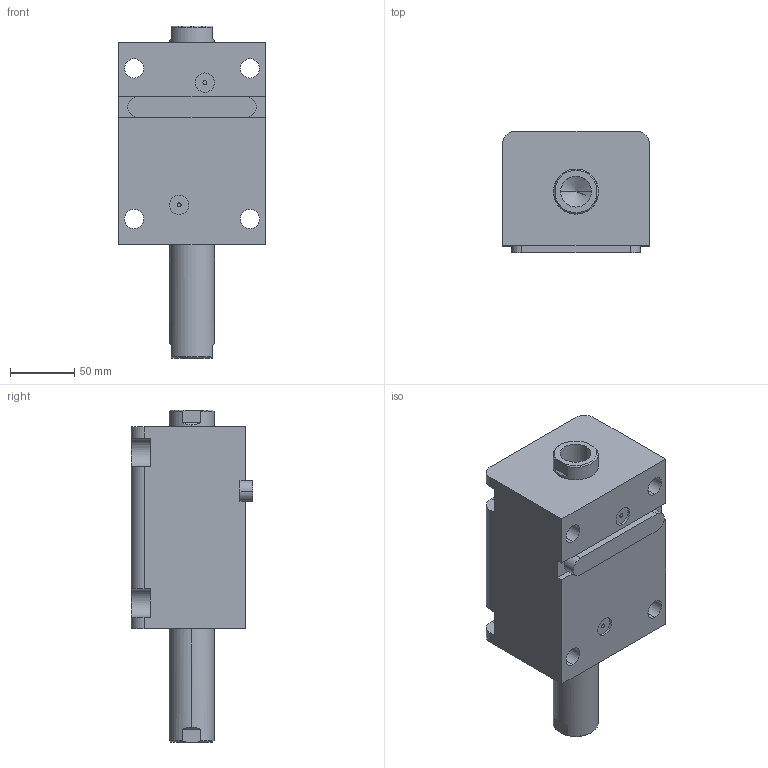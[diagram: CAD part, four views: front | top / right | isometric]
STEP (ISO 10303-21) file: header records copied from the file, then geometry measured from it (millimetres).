
FILE_DESCRIPTION (( 'STEP AP203' ), '1' );
FILE_NAME ('HTB-LWM63-75N.STEP', '2020-12-25T03:52:19', ( '微软用户' ), ( '微软中国' ), 'SwSTEP 2.0', 'SolidWorks 2012', '' );
FILE_SCHEMA (( 'CONFIG_CONTROL_DESIGN' ));
Length unit declared in the file: millimetre
Products named in the file (4): HTB-LWM63-75掛极; HTB-LWM63-75N活塞杆; HTB-LWM63-瑩; HTB-LWM63-75N
Assembly tree (3 placements, depth 2):
  HTB-LWM63-75N
    HTB-LWM63-75掛极
    HTB-LWM63-75N活塞杆
    HTB-LWM63-瑩
Bounding box: 114 x 94.5 x 258 mm (x, y, z)
Volume: 1414161.9 mm3; surface area: 173717.5 mm2
Topology: 3 solids, 3 shells, 105 faces, 261 edges, 168 vertices
Faces by surface type: cylinder 45, plane 44, torus 8, cone 8
Entity records: 3571 total; most frequent: CARTESIAN_POINT 592, DIRECTION 573, ORIENTED_EDGE 514, EDGE_CURVE 257, AXIS2_PLACEMENT_3D 221, VERTEX_POINT 168, LINE 131, VECTOR 131
